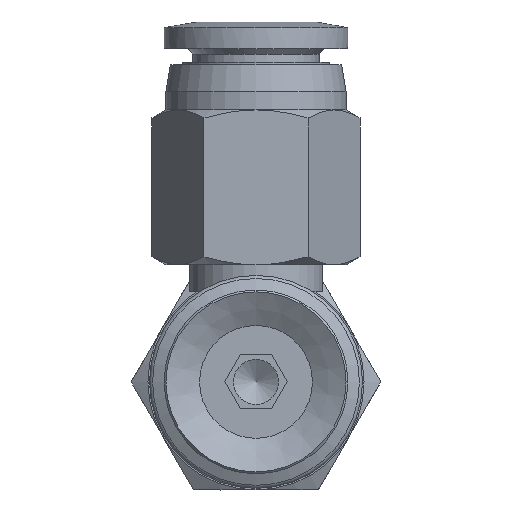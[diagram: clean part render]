
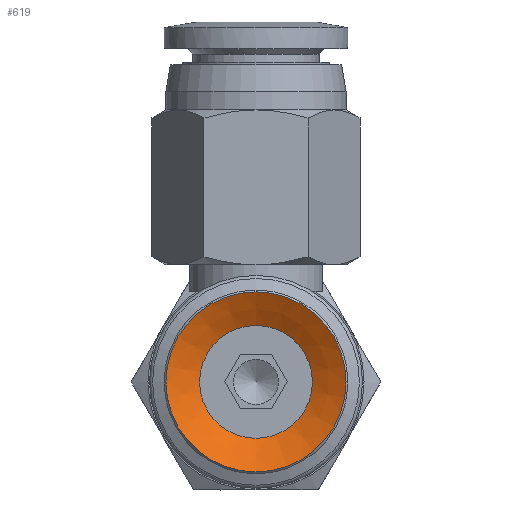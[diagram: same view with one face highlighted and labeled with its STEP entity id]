
A CAD part, front view. The second image highlights one B-rep face of the part: STEP entity #619.
In plain terms, the highlighted conical face has half-angle 60 degrees and reference radius 3.133 mm.
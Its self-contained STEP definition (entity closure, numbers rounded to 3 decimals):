
#619=ADVANCED_FACE('',(#940,#941),#942,.F.);
#940=FACE_BOUND('',#1374,.T.);
#941=FACE_OUTER_BOUND('',#1375,.T.);
#942=CONICAL_SURFACE('',#1376,3.133,1.047);
#1374=EDGE_LOOP('',(#2510));
#1375=EDGE_LOOP('',(#2511));
#1376=AXIS2_PLACEMENT_3D('',#2512,#2513,#2514);
#2510=ORIENTED_EDGE('',*,*,#3129,.F.);
#2511=ORIENTED_EDGE('',*,*,#3130,.T.);
#2512=CARTESIAN_POINT('',(0.0,7.659,0.));
#2513=DIRECTION('',(-0.0,-1.0,0.));
#2514=DIRECTION('',(0.0,0.,-1.0));
#3129=EDGE_CURVE('',#3585,#3585,#3586,.T.);
#3130=EDGE_CURVE('',#3587,#3587,#3588,.T.);
#3585=VERTEX_POINT('',#4701);
#3586=CIRCLE('',#4702,3.133);
#3587=VERTEX_POINT('',#4703);
#3588=CIRCLE('',#4704,5.0);
#4701=CARTESIAN_POINT('',(0.0,7.659,-3.133));
#4702=AXIS2_PLACEMENT_3D('',#5488,#5489,#5490);
#4703=CARTESIAN_POINT('',(0.0,6.581,-5.0));
#4704=AXIS2_PLACEMENT_3D('',#5491,#5492,#5493);
#5488=CARTESIAN_POINT('',(0.0,7.659,0.));
#5489=DIRECTION('',(0.0,-1.0,0.));
#5490=DIRECTION('',(0.0,0.,-1.0));
#5491=CARTESIAN_POINT('',(0.0,6.581,0.0));
#5492=DIRECTION('',(0.0,-1.0,0.));
#5493=DIRECTION('',(0.0,0.,-1.0));
